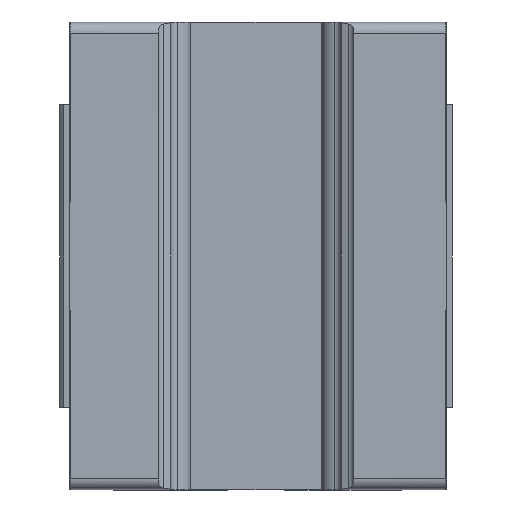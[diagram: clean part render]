
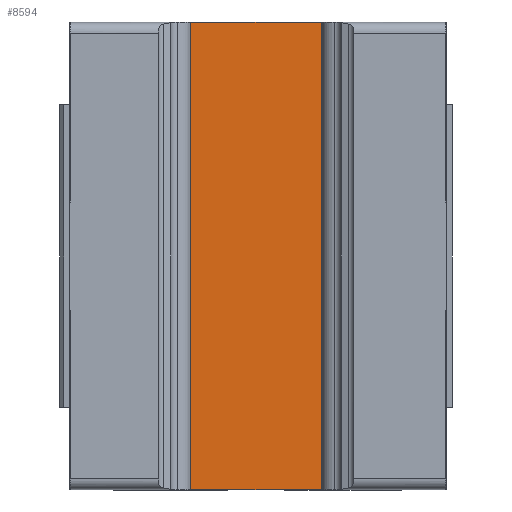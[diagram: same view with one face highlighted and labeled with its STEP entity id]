
A CAD part, front view. The second image highlights one B-rep face of the part: STEP entity #8594.
In plain terms, the highlighted planar face has unit normal (0, -1, 0).
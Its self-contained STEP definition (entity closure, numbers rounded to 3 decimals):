
#3094 = DIRECTION ( 'NONE',  ( 0., 0., 1. ) ) ;
#3095 = VECTOR ( 'NONE', #3094, 1000. ) ;
#3096 = CARTESIAN_POINT ( 'NONE',  ( -8.834, 9., -10.1 ) ) ;
#3097 = LINE ( 'NONE', #3096, #3095 ) ;
#3111 = DIRECTION ( 'NONE',  ( 0., 0., 1. ) ) ;
#3112 = VECTOR ( 'NONE', #3111, 1000. ) ;
#3113 = CARTESIAN_POINT ( 'NONE',  ( 8.834, 9., -10.1 ) ) ;
#3114 = LINE ( 'NONE', #3113, #3112 ) ;
#3115 = DIRECTION ( 'NONE',  ( 0., 0., 1. ) ) ;
#3116 = DIRECTION ( 'NONE',  ( 0., 1., 0. ) ) ;
#3117 = CARTESIAN_POINT ( 'NONE',  ( 8.834, 9., -10.1 ) ) ;
#3118 = AXIS2_PLACEMENT_3D ( 'NONE', #3117, #3116, #3115 ) ;
#3119 = PLANE ( 'NONE',  #3118 ) ;
#3120 = FACE_OUTER_BOUND ( 'NONE', #8595, .T. ) ;
#4981 = CARTESIAN_POINT ( 'NONE',  ( -8.834, 9., -10.05 ) ) ;
#5059 = LINE ( 'NONE', #5185, #5184 ) ;
#5060 = CARTESIAN_POINT ( 'NONE',  ( 8.834, 9., -10.05 ) ) ;
#5183 = DIRECTION ( 'NONE',  ( -1., 0., 0. ) ) ;
#5184 = VECTOR ( 'NONE', #5183, 1000. ) ;
#5185 = CARTESIAN_POINT ( 'NONE',  ( -9.2, 9., -10.05 ) ) ;
#5510 = EDGE_CURVE ( 'NONE', #5691, #5511, #10075, .T. ) ;
#5511 = VERTEX_POINT ( 'NONE', #10111 ) ;
#5691 = VERTEX_POINT ( 'NONE', #10457 ) ;
#8578 = ORIENTED_EDGE ( 'NONE', *, *, #8597, .T. ) ;
#8579 = ORIENTED_EDGE ( 'NONE', *, *, #5510, .F. ) ;
#8587 = ORIENTED_EDGE ( 'NONE', *, *, #8737, .F. ) ;
#8594 = ADVANCED_FACE ( 'NONE', ( #3120 ), #3119, .F. ) ;
#8595 = EDGE_LOOP ( 'NONE', ( #8578, #8579, #8587, #8609 ) ) ;
#8597 = EDGE_CURVE ( 'NONE', #9372, #5511, #3114, .T. ) ;
#8609 = ORIENTED_EDGE ( 'NONE', *, *, #9374, .F. ) ;
#8737 = EDGE_CURVE ( 'NONE', #9392, #5691, #3097, .T. ) ;
#9372 = VERTEX_POINT ( 'NONE', #5060 ) ;
#9374 = EDGE_CURVE ( 'NONE', #9372, #9392, #5059, .T. ) ;
#9392 = VERTEX_POINT ( 'NONE', #4981 ) ;
#10072 = DIRECTION ( 'NONE',  ( 1., 0., 0. ) ) ;
#10073 = VECTOR ( 'NONE', #10072, 1000. ) ;
#10074 = CARTESIAN_POINT ( 'NONE',  ( -9.2, 9., 47.05 ) ) ;
#10075 = LINE ( 'NONE', #10074, #10073 ) ;
#10111 = CARTESIAN_POINT ( 'NONE',  ( 8.834, 9., 47.05 ) ) ;
#10457 = CARTESIAN_POINT ( 'NONE',  ( -8.834, 9., 47.05 ) ) ;
